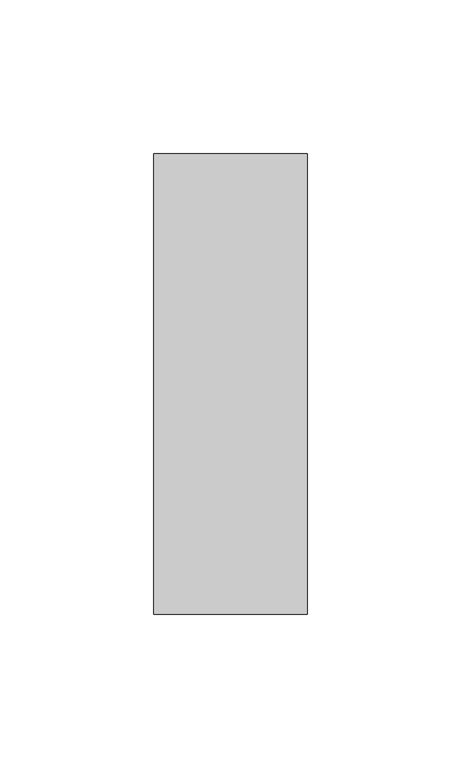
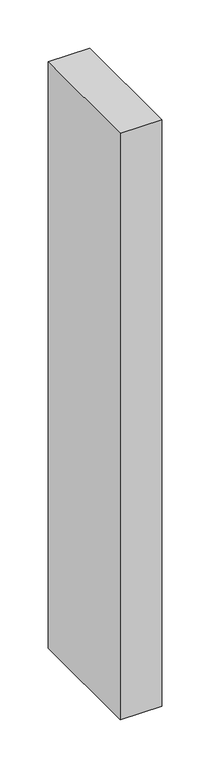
"""IFC4 building model written with IfcOpenShell, lengths in millimetres: member geometry, Прямоугольный импост : 50 x 150 мм."""

from ifc_helpers import new_model, si_unit, frame, origin, place, context, project, spatial, polyline, outline, extrude, source, transform, mapped, element, save


def member_c10153df(model_context):
    return source(origin(), model_context, "Body", "SweptSolid", [
        extrude(outline(polyline([(25.0, 75.0), (25.0, -75.0), (-25.0, -75.0), (-25.0, 75.0), (25.0, 75.0)])), frame((0.0, 0.0, -745.7277027), z_axis=(0.0, 0.0, 1.0), x_axis=(1.0, 0.0, 0.0)), (0.0, 0.0, 1.0), 745.7277027),
    ])


if __name__ == "__main__":
    model = new_model("IFC4")
    model_context = context("Model", 3, world=origin())
    ifc_project = project(units=[si_unit("LENGTHUNIT", "METRE", prefix="MILLI")], contexts=[model_context])
    site = spatial("IfcSite", under=ifc_project)
    building = spatial("IfcBuilding", under=site)
    placement = place(None, origin())
    member_shape = member_c10153df(model_context)
    element("IfcMember", 1, ObjectType="Прямоугольный импост : 50 x 150 мм", at=placement, inside=building, context=model_context, shape_type="MappedRepresentation", body=[
        mapped(member_shape, transform((0.0, 0.0, 0.0), x_axis=(1.0, 0.0, 0.0), y_axis=(0.0, 1.0, 0.0), z_axis=(0.0, 0.0, 1.0))),
    ])
    save(model, "model.ifc")
